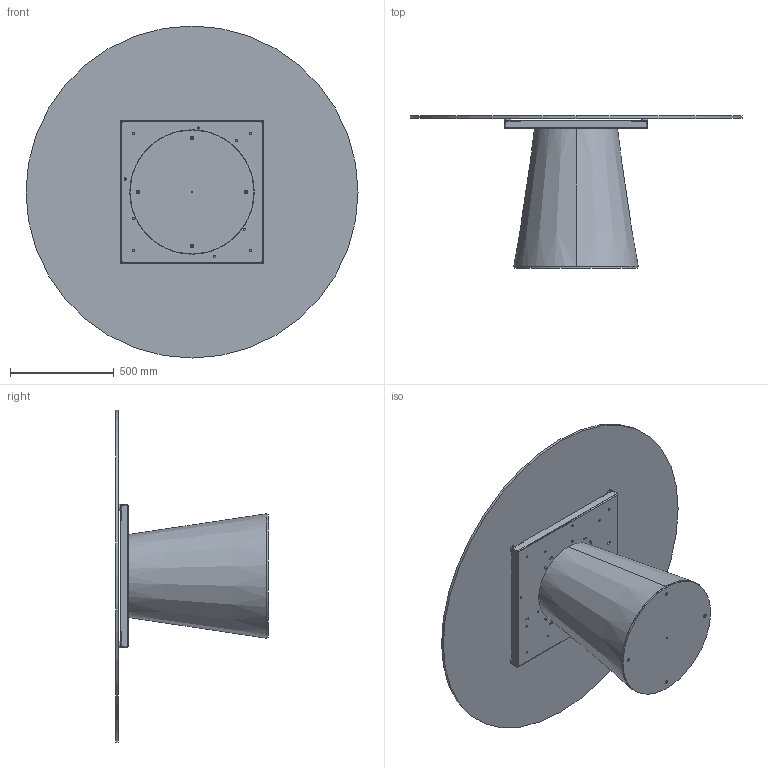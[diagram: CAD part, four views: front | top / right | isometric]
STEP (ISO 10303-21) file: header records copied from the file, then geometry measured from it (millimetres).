
FILE_DESCRIPTION (( 'STEP AP203' ), '1' );
FILE_NAME ('TO08G_Teo_d.160_Glass.STEP', '2024-08-02T09:24:51', ( '' ), ( '' ), 'SwSTEP 2.0', 'SolidWorks 2022', '' );
FILE_SCHEMA (( 'CONFIG_CONTROL_DESIGN' ));
Length unit declared in the file: millimetre
Products named in the file (11): TTAV0801-02-TELAIO UNIVERSALE TONDO; M8xXXmm_hex_M8X20mm; TTAV0801-02-TELAIO UNIVERSALE TONDO-VASSOIO; 434070-00-PIEDINO TPV GOMMA NERO D. 30x8max18_filo estetico; TEO0000-00-TEO BASE LEGNO IMPIALLACCIATA LEVIGATO PRONTA X VERNICE; BASE TED LEGNO CON ZAVORRA; C1XCRMXX-00-piani Rotondi Cristallo_C08 D.160cm; TTAV0801 TELAIO UNIVERSALE TONDO-PIASTRINA; COLLO TELAIO UNIVERSALE TTAV0801 CON FERRAMENTA_MTG TOP CRISTALLO VERNICIATO-CERAMICA; TO08G_Teo_d.160_Glass; TEO000000PIA-00-TEO PIASTRA DI BASE IN METALLO GREZZO
Assembly tree (19 placements, depth 4):
  TO08G_Teo_d.160_Glass
    BASE TED LEGNO CON ZAVORRA
      TEO000000PIA-00-TEO PIASTRA DI BASE IN METALLO GREZZO
      TEO0000-00-TEO BASE LEGNO IMPIALLACCIATA LEVIGATO PRONTA X VERNICE
      M8xXXmm_hex_M8X20mm  x4
    COLLO TELAIO UNIVERSALE TTAV0801 CON FERRAMENTA_MTG TOP CRISTALLO VERNICIATO-CERAMICA
      TTAV0801-02-TELAIO UNIVERSALE TONDO
        TTAV0801-02-TELAIO UNIVERSALE TONDO-VASSOIO
        TTAV0801 TELAIO UNIVERSALE TONDO-PIASTRINA  x4
      434070-00-PIEDINO TPV GOMMA NERO D. 30x8max18_filo estetico  x4
    C1XCRMXX-00-piani Rotondi Cristallo_C08 D.160cm
Bounding box: 1600 x 735.19 x 1600 mm (x, y, z)
Volume: 54392437.5 mm3; surface area: 8508272 mm2
Topology: 20 solids, 20 shells, 648 faces, 1650 edges, 1040 vertices
Faces by surface type: plane 322, cylinder 266, cone 36, torus 24
Entity records: 13956 total; most frequent: DIRECTION 2275, CARTESIAN_POINT 2146, ORIENTED_EDGE 2102, EDGE_CURVE 1051, AXIS2_PLACEMENT_3D 806, VERTEX_POINT 677, VECTOR 663, LINE 663
